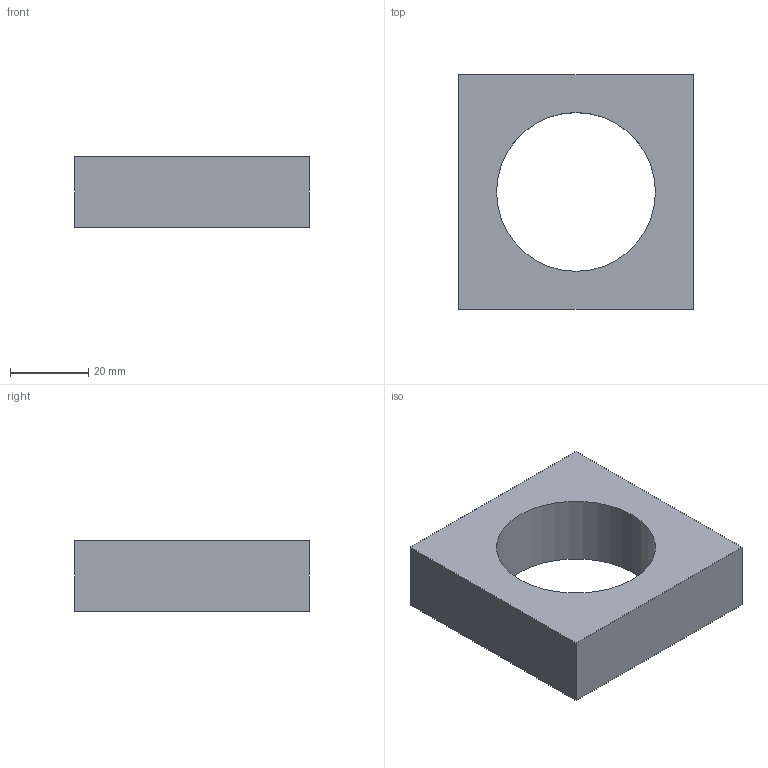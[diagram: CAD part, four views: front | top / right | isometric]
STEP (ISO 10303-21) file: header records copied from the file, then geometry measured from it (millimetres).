
FILE_DESCRIPTION(('Open CASCADE Model'),'2;1');
FILE_NAME('Open CASCADE Shape Model','2026-10-04T01:02:25',('Author'),( 'Open CASCADE'),'Open CASCADE STEP processor 8.0','Open CASCADE 8.0' ,'Unknown');
FILE_SCHEMA(('AUTOMOTIVE_DESIGN { 1 0 10303 214 1 1 1 1 }'));
Length unit declared in the file: millimetre
Products named in the file (1): Open CASCADE STEP translator 8.0 58
Bounding box: 60 x 60 x 18 mm (x, y, z)
Volume: 41496.9 mm3; surface area: 11226.6 mm2
Topology: 1 solids, 1 shells, 7 faces, 15 edges, 10 vertices
Faces by surface type: plane 6, cylinder 1
Full cylindrical faces by diameter (mm): 40.6 x1
Entity records: 400 total; most frequent: CARTESIAN_POINT 63, DIRECTION 63, LINE 41, VECTOR 41, ORIENTED_EDGE 30, PCURVE 30, DEFINITIONAL_REPRESENTATION 30, EDGE_CURVE 15
